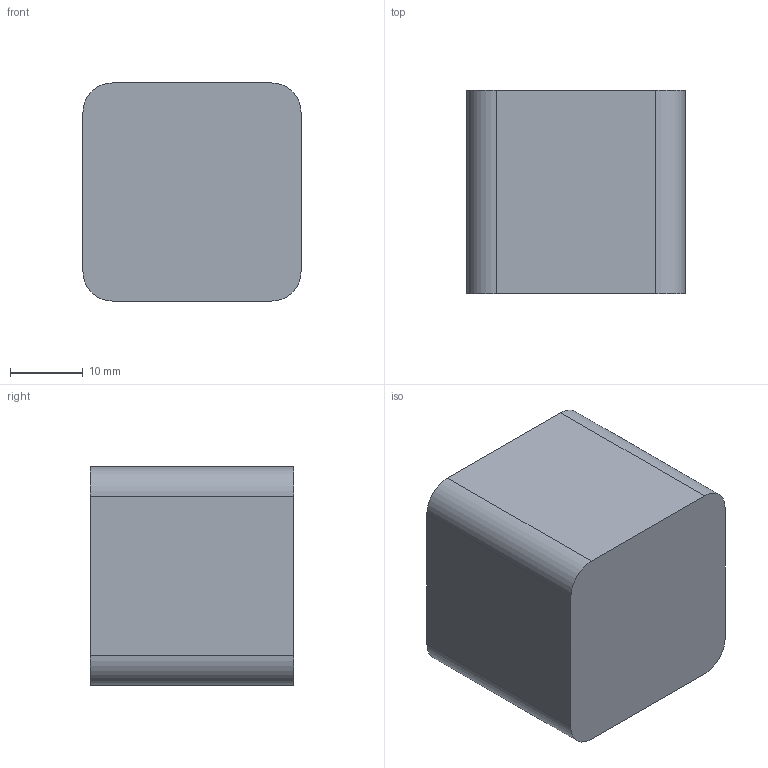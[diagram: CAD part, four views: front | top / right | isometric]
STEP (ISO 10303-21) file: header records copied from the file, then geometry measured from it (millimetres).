
FILE_DESCRIPTION(('Open CASCADE Model'),'2;1');
FILE_NAME('Open CASCADE Shape Model','2026-10-17T16:45:07',('Author'),( 'Open CASCADE'),'Open CASCADE STEP processor 8.0','build123d', 'Unknown');
FILE_SCHEMA(('AUTOMOTIVE_DESIGN { 1 0 10303 214 1 1 1 1 }'));
Length unit declared in the file: millimetre
Products named in the file (2): =>[0:1:1:2]; COMPOUND
Assembly tree (1 placements, depth 2):
  =>[0:1:1:2]
    COMPOUND
Bounding box: 30 x 28 x 30 mm (x, y, z)
Volume: 24815.4 mm3; surface area: 4940.2 mm2
Topology: 1 solids, 1 shells, 10 faces, 24 edges, 16 vertices
Faces by surface type: plane 6, cylinder 4
Entity records: 648 total; most frequent: CARTESIAN_POINT 124, DIRECTION 100, LINE 56, VECTOR 56, ORIENTED_EDGE 48, PCURVE 48, DEFINITIONAL_REPRESENTATION 48, EDGE_CURVE 24
